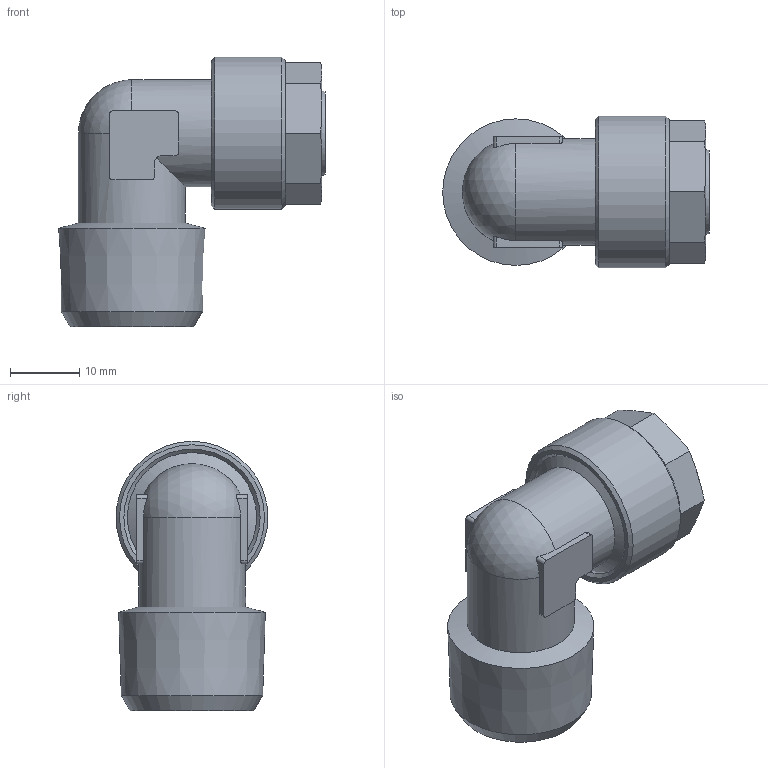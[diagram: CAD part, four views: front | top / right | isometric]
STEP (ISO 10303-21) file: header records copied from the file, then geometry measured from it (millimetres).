
FILE_DESCRIPTION(/* description */ (''),/* implementation_level */ '2;1');
FILE_NAME(/* name */ '11016_305_1512,5_R12_19.07.17',/* time_stamp */ '2017-07-19T10:05:52+02:00',/* author */ (''),/* organization */ (''),/* preprocessor_version */ 'ST-DEVELOPER v16.5',/* originating_system */ 'HiCAD 2016 2102.2 Build 618',/* authorisation */ '');
FILE_SCHEMA (('AUTOMOTIVE_DESIGN { 1 0 10303 214 1 1 1 1 }'));
Length unit declared in the file: millimetre
Products named in the file (3): Root; 17009; R11016
Assembly tree (2 placements, depth 2):
  Root
    17009
    R11016
Bounding box: 38.61 x 22 x 39 mm (x, y, z)
Volume: 8574.8 mm3; surface area: 7812.2 mm2
Topology: 2 solids, 2 shells, 77 faces, 196 edges, 126 vertices
Faces by surface type: plane 29, cone 23, cylinder 23, torus 1, sphere 1
Full cylindrical faces by diameter (mm): 11 x2, 13.1 x1, 15 x2, 15.5 x2, 18.733 x1, 20 x1, 22 x1
Entity records: 6362 total; most frequent: CARTESIAN_POINT 3020, DIRECTION 380, PRESENTATION_STYLE_ASSIGNMENT 320, COLOUR_RGB 319, DRAUGHTING_PRE_DEFINED_CURVE_FONT 318, CURVE_STYLE 318, OVER_RIDING_STYLED_ITEM 318, ORIENTED_EDGE 318
